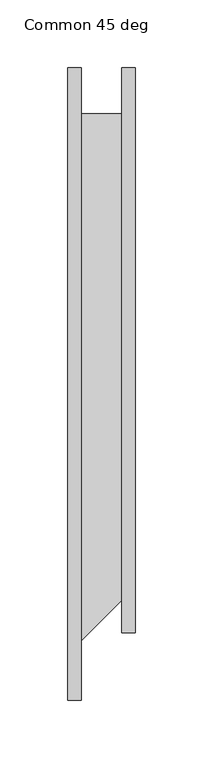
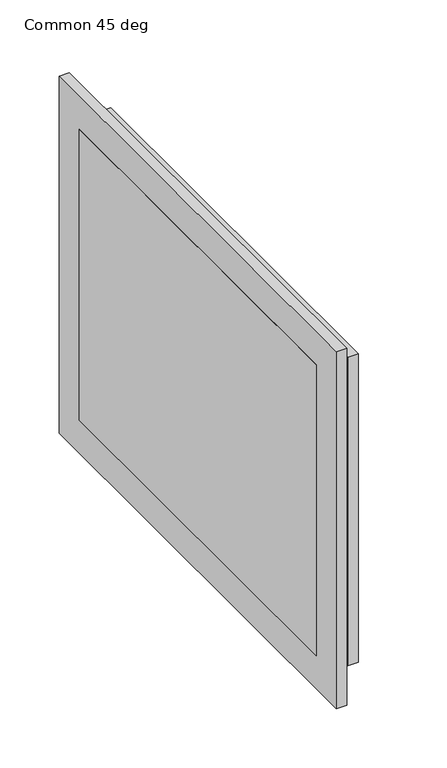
"""IFC4 building model written with IfcOpenShell, lengths in millimetres: duct fitting geometry, 041_角型置換 - フランジ - 角度 : Common 45 deg."""

from ifc_helpers import new_model, si_unit, frame, origin, place, context, project, spatial, polyline, outline, extrude, faceted_brep, source, transform, mapped, element, save


def common_45_deg_c842ccf0(model_context):
    return source(origin(), model_context, "Body", "SolidModel", [
        faceted_brep([(50.0, -150.0, 100.0), (50.0, -150.0, -150.0), (50.0, 200.0, -150.0), (50.0, 200.0, 100.0), (0.0, -200.0, 150.0), (0.0, 200.0, 150.0), (0.0, 200.0, -150.0), (0.0, -200.0, -150.0)], [[[0, 1, 2, 3]], [[4, 5, 6, 7]], [[4, 7, 1, 0]], [[7, 6, 2, 1]], [[6, 5, 3, 2]], [[5, 4, 0, 3]]]),
        extrude(outline(polyline([(50.0, 234.0), (50.0, -184.0), (40.0, -184.0), (40.0, 234.0), (50.0, 234.0)])), frame((0.0, 0.0, -184.0), z_axis=(0.0, 0.0, 1.0), x_axis=(1.0, 0.0, 0.0)), (0.0, 0.0, 1.0), 318.0),
        extrude(outline(polyline([(10.0, 234.0), (10.0, -234.0), (0.0, -234.0), (0.0, 234.0), (10.0, 234.0)])), frame((0.0, 0.0, -184.0), z_axis=(0.0, 0.0, 1.0), x_axis=(1.0, 0.0, 0.0)), (0.0, 0.0, 1.0), 368.0),
    ])


if __name__ == "__main__":
    model = new_model("IFC4")
    model_context = context("Model", 3, world=origin())
    ifc_project = project(units=[si_unit("LENGTHUNIT", "METRE", prefix="MILLI")], contexts=[model_context])
    site = spatial("IfcSite", under=ifc_project)
    building = spatial("IfcBuilding", under=site)
    placement = place(None, origin())
    common_45_deg_shape = common_45_deg_c842ccf0(model_context)
    element("IfcDuctFitting", 1, ObjectType="041_角型置換 - フランジ - 角度 : Common 45 deg", at=placement, inside=building, context=model_context, shape_type="MappedRepresentation", body=[
        mapped(common_45_deg_shape, transform((0.0, 0.0, 0.0), x_axis=(1.0, 0.0, 0.0), y_axis=(0.0, 1.0, 0.0), z_axis=(0.0, 0.0, 1.0))),
    ])
    save(model, "model.ifc")
